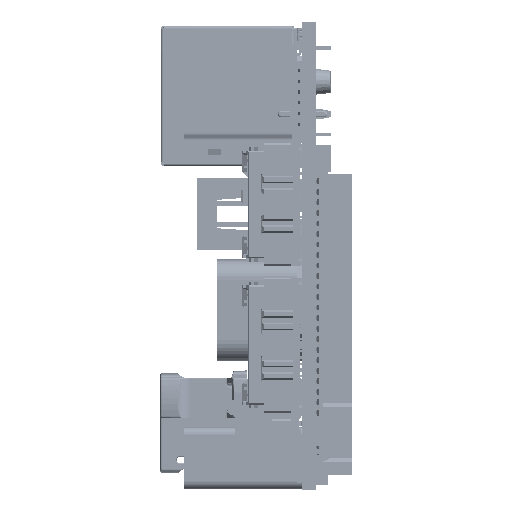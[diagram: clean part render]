
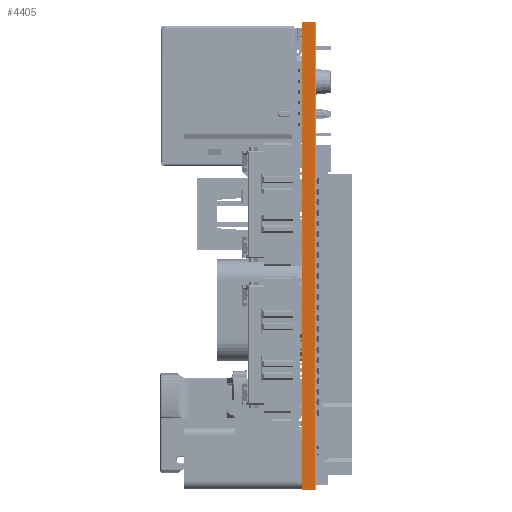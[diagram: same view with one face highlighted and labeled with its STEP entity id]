
A CAD part, left-side view. The second image highlights one B-rep face of the part: STEP entity #4405.
In plain terms, the highlighted planar face has unit normal (-1, 0, 0).
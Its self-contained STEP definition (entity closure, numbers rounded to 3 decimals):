
#124=DIRECTION('',(0.,0.,1.));
#125=VECTOR('',#124,56.5);
#126=CARTESIAN_POINT('',(0.,-0.8,-56.5));
#127=LINE('',#126,#125);
#1167=DIRECTION('',(0.,0.,1.));
#1168=VECTOR('',#1167,56.5);
#1169=CARTESIAN_POINT('',(0.,0.8,-56.5));
#1170=LINE('',#1169,#1168);
#2108=DIRECTION('',(0.,1.,0.));
#2109=VECTOR('',#2108,1.6);
#2110=CARTESIAN_POINT('',(0.,-0.8,0.));
#2111=LINE('',#2110,#2109);
#2207=DIRECTION('',(0.,1.,0.));
#2208=VECTOR('',#2207,1.6);
#2209=CARTESIAN_POINT('',(0.,-0.8,-56.5));
#2210=LINE('',#2209,#2208);
#2794=CARTESIAN_POINT('',(0.,-0.8,-56.5));
#2795=CARTESIAN_POINT('',(0.,-0.8,0.));
#2796=VERTEX_POINT('',#2794);
#2797=VERTEX_POINT('',#2795);
#2802=CARTESIAN_POINT('',(0.,0.8,-56.5));
#2803=CARTESIAN_POINT('',(0.,0.8,0.));
#2804=VERTEX_POINT('',#2802);
#2805=VERTEX_POINT('',#2803);
#4394=CARTESIAN_POINT('',(0.,-0.8,-56.5));
#4395=DIRECTION('',(-1.,0.,0.));
#4396=DIRECTION('',(0.,0.,1.));
#4397=AXIS2_PLACEMENT_3D('',#4394,#4395,#4396);
#4398=PLANE('',#4397);
#4399=ORIENTED_EDGE('',*,*,#3283,.F.);
#4400=ORIENTED_EDGE('',*,*,#4090,.T.);
#4401=ORIENTED_EDGE('',*,*,#3699,.T.);
#4402=ORIENTED_EDGE('',*,*,#4276,.F.);
#4403=EDGE_LOOP('',(#4399,#4400,#4401,#4402));
#4404=FACE_OUTER_BOUND('',#4403,.F.);
#4405=ADVANCED_FACE('',(#4404),#4398,.T.);
#3283=EDGE_CURVE('',#2796,#2797,#127,.T.);
#3699=EDGE_CURVE('',#2804,#2805,#1170,.T.);
#4090=EDGE_CURVE('',#2796,#2804,#2210,.T.);
#4276=EDGE_CURVE('',#2797,#2805,#2111,.T.);
